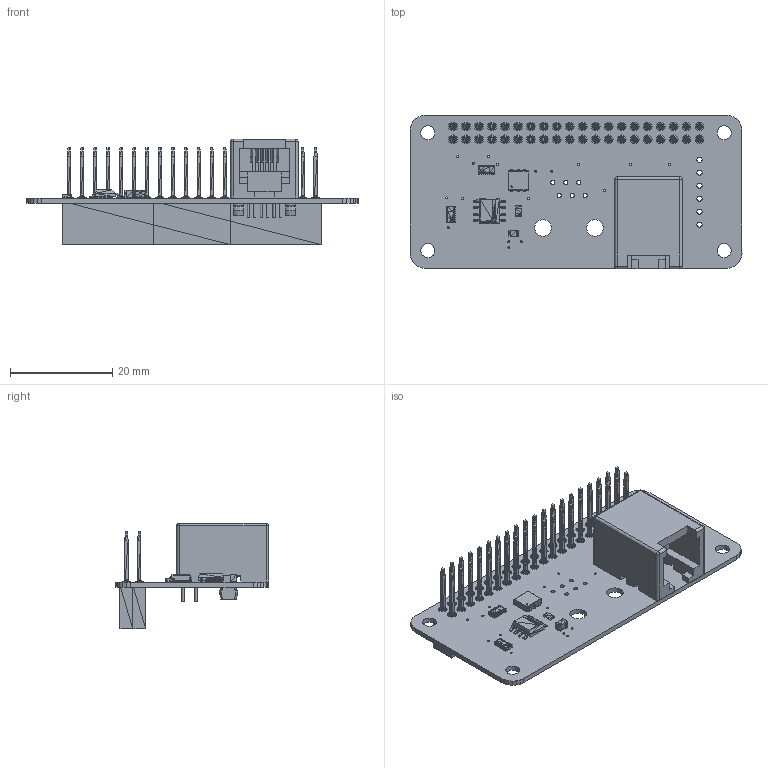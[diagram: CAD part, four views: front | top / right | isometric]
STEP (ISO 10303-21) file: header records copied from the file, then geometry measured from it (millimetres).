
FILE_DESCRIPTION(/* description */ (''),/* implementation_level */ '2;1');
FILE_NAME(/* name */ 'C:/Users/andrew/Desktop/3D Models/1-wire-pi-zero-1.0.step',/* time_stamp */ '2018-02-10T15:24:03+00:00',/* author */ ('and101'),/* organization */ (''),/* preprocessor_version */ 'ST-DEVELOPER v16.13',/* originating_system */ 'Autodesk Translation Framework v6.5.0.72',/* authorisation */ '');
FILE_SCHEMA (('AUTOMOTIVE_DESIGN { 1 0 10303 214 3 1 1 }'));
Products named in the file (9): 1-wire-pi-zero; Board_1-wire-pi-zero; 54601-906WPLFc; SW3dPS-TSOC6; cap_0805; 40_way_header; res_0805; rescav-8_1.6x3.2x0; soic-8_150mil
Assembly tree (9 placements, depth 2):
  1-wire-pi-zero
    Board_1-wire-pi-zero
    54601-906WPLFc
    SW3dPS-TSOC6
    cap_0805
    40_way_header
    res_0805
    rescav-8_1.6x3.2x0  x2
    soic-8_150mil
Bounding box: 65 x 30.06 x 20.65 mm (x, y, z)
Volume: 6585 mm3; surface area: 10682.5 mm2
Topology: 145 solids, 145 shells, 28043 faces, 42658 edges, 14920 vertices
Faces by surface type: plane 27854, cylinder 149, bspline 16, sphere 12, cone 8, torus 4
Full cylindrical faces by diameter (mm): 0.3 x1, 0.406 x21, 0.46 x12, 0.8 x12, 1 x46, 2.75 x4, 3.25 x4
Entity records: 520001 total; most frequent: DIRECTION 92631, CARTESIAN_POINT 81823, ORIENTED_EDGE 79688, EDGE_CURVE 39844, LINE 39295, VECTOR 39295, AXIS2_PLACEMENT_3D 26668, EDGE_LOOP 26356
